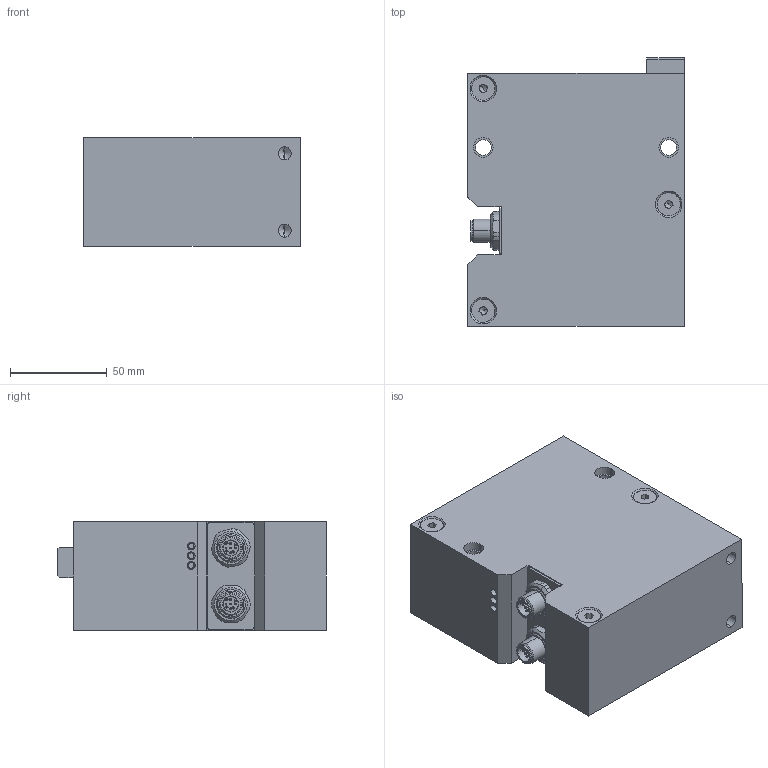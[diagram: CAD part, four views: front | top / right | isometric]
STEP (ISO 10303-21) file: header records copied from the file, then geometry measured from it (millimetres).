
FILE_DESCRIPTION (( 'STEP AP203' ), '1' );
FILE_NAME ('ELU-300-08-5A-S16_Vereinzeler_ohne_Dämpfung~1.STEP', '2022-09-19T11:06:28', ( '' ), ( '' ), 'SwSTEP 2.0', 'SolidWorks 2019', '' );
FILE_SCHEMA (( 'CONFIG_CONTROL_DESIGN' ));
Length unit declared in the file: millimetre
Products named in the file (1): ELU-300-08-5A-S16_Vereinzeler_ohne_Dämpfung~1
Bounding box: 112 x 139 x 56 mm (x, y, z)
Surface area: 120292.5 mm2 (no closed solid volume)
Topology: 0 solids, 43 shells, 1045 faces, 2635 edges, 1692 vertices
Faces by surface type: plane 438, cylinder 367, cone 133, bspline 77, torus 30
Entity records: 33173 total; most frequent: CARTESIAN_POINT 7833, DIRECTION 5330, ORIENTED_EDGE 5190, EDGE_CURVE 2603, AXIS2_PLACEMENT_3D 1985, VERTEX_POINT 1692, LINE 1360, VECTOR 1360
